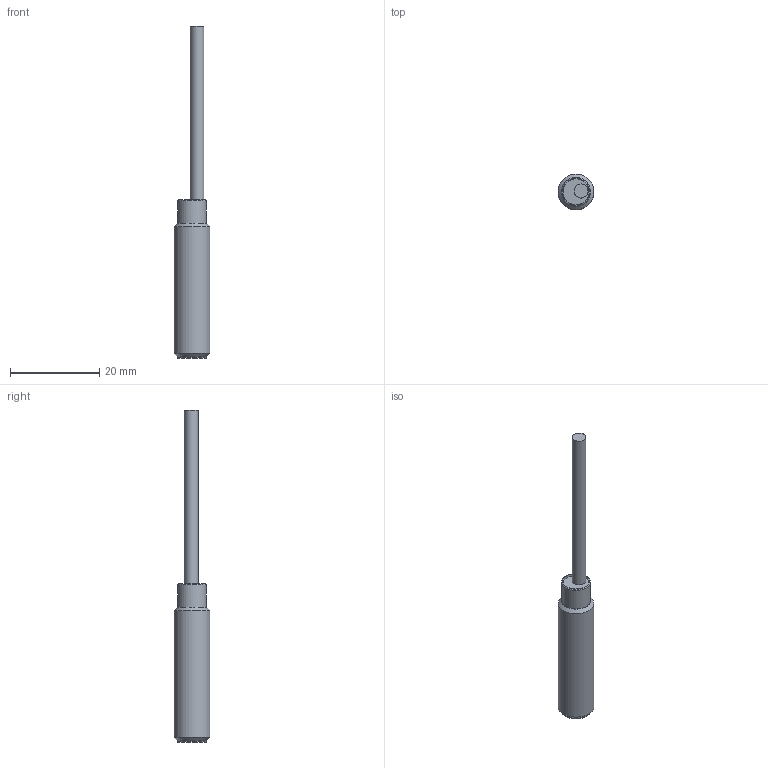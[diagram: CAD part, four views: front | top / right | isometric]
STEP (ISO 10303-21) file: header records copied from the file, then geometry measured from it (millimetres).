
FILE_DESCRIPTION( ( 'Unknown' ), '1' );
FILE_NAME( 'C:/Users/acasucci/Desktop/AE6_1A_fig.stp', 'Unknown', ( 'Unknown' ), ( 'Unknown' ), 'PSStep 17.0.49', 'Unknown', ' ' );
FILE_SCHEMA( ( 'AUTOMOTIVE_DESIGN { 1 0 10303 214 1 1 1 1 }' ) );
Length unit declared in the file: millimetre
Products named in the file (5): Assem1
Assembly tree (4 placements, depth 2):
  Assem1
    (unnamed)
    (unnamed)
    (unnamed)
    (unnamed)
Bounding box: 8 x 8 x 74.5 mm (x, y, z)
Volume: 1957.5 mm3; surface area: 1489.7 mm2
Topology: 4 solids, 4 shells, 20 faces, 28 edges, 18 vertices
Faces by surface type: plane 10, cylinder 6, torus 2, cone 2
Full cylindrical faces by diameter (mm): 3.1 x2, 5.8 x1, 6.45 x1, 6.5 x1, 8 x1
Entity records: 449 total; most frequent: DIRECTION 82, CARTESIAN_POINT 57, AXIS2_PLACEMENT_3D 41, EDGE_LOOP 32, ORIENTED_EDGE 32, FACE_OUTER_BOUND 28, ADVANCED_FACE 20, EDGE_CURVE 16
